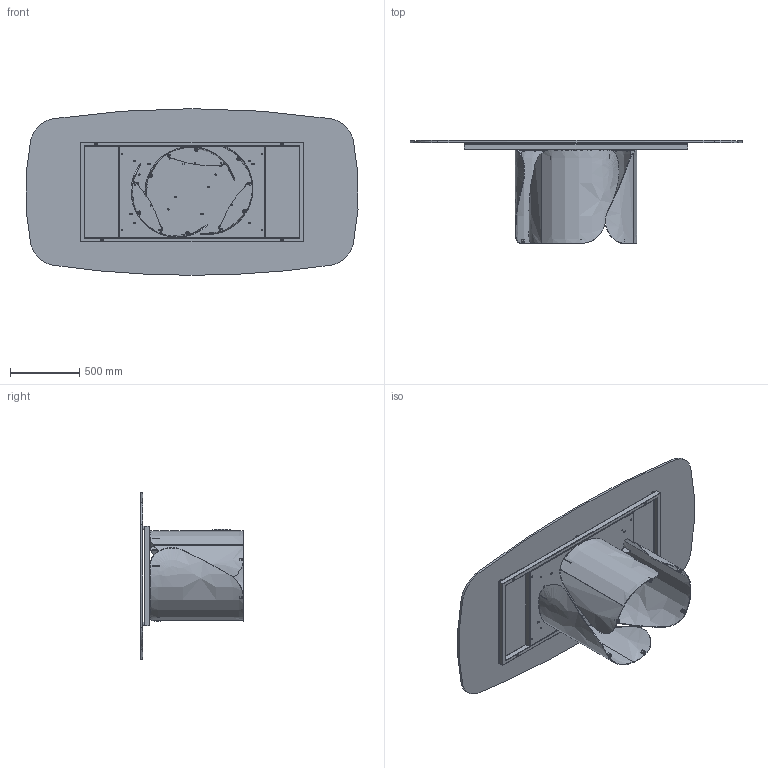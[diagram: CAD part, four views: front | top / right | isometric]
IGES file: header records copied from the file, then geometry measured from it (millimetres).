
Start section: SolidWorks IGES file using analytic representation for surfaces
Global section: file name: Y:\eforma\TECNICO\SOLIDWORKS\E-FORMA\1-TAVOLI\ONDA\02 parts\ON43G.IGS; native system: SolidWorks 2022; preprocessor: SolidWorks 2022; author: eforma.tech; date: 240806.155513; units: millimetre
Bounding box: 2391.62 x 741 x 1200 mm (x, y, z)
Volume: 52725813.3 mm3; surface area: 11698923.6 mm2
Topology: 63 solids, 63 shells, 1552 faces, 3512 edges, 2116 vertices
Faces by surface type: revolution 914, plane 578, bspline 60
